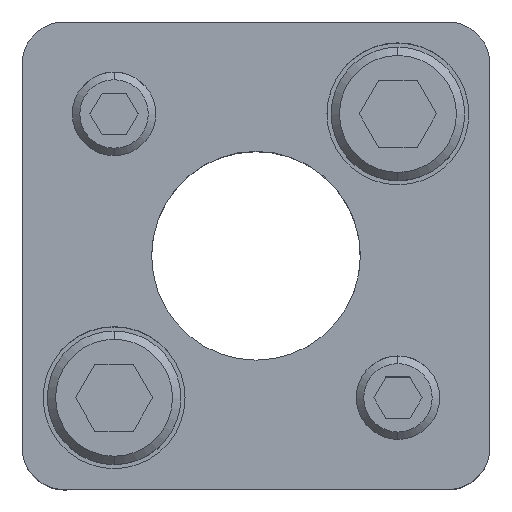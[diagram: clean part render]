
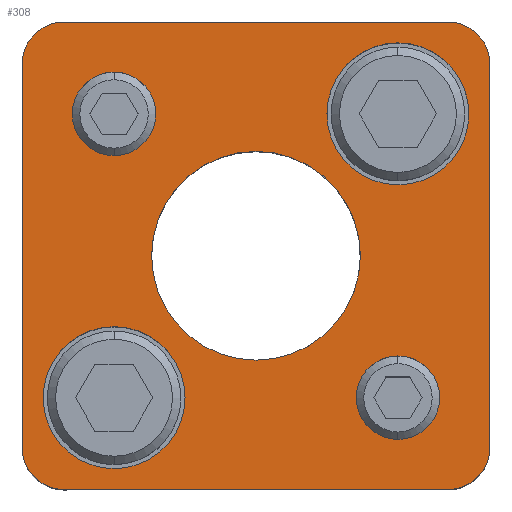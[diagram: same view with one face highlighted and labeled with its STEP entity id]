
A CAD part, top view. The second image highlights one B-rep face of the part: STEP entity #308.
In plain terms, the highlighted planar face has unit normal (0, 0, 1).
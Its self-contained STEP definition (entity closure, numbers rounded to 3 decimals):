
#165=PLANE('',#2567);
#228=FACE_BOUND('',#643,.T.);
#229=FACE_BOUND('',#644,.T.);
#230=FACE_BOUND('',#645,.T.);
#231=FACE_BOUND('',#646,.T.);
#232=FACE_BOUND('',#647,.T.);
#233=FACE_BOUND('',#648,.T.);
#308=ADVANCED_FACE('',(#228,#229,#230,#231,#232,#233),#165,.T.);
#643=EDGE_LOOP('',(#1335,#1336,#1337,#1338,#1339,#1340,#1341,#1342));
#644=EDGE_LOOP('',(#1343,#1344));
#645=EDGE_LOOP('',(#1345,#1346));
#646=EDGE_LOOP('',(#1347,#1348));
#647=EDGE_LOOP('',(#1349,#1350));
#648=EDGE_LOOP('',(#1351,#1352));
#806=LINE('',#3770,#988);
#807=LINE('',#3774,#989);
#808=LINE('',#3778,#990);
#809=LINE('',#3782,#991);
#988=VECTOR('',#3009,1.);
#989=VECTOR('',#3012,1.);
#990=VECTOR('',#3015,1.);
#991=VECTOR('',#3018,1.);
#1335=ORIENTED_EDGE('',*,*,#2102,.T.);
#1336=ORIENTED_EDGE('',*,*,#2103,.T.);
#1337=ORIENTED_EDGE('',*,*,#2104,.T.);
#1338=ORIENTED_EDGE('',*,*,#2105,.T.);
#1339=ORIENTED_EDGE('',*,*,#2106,.T.);
#1340=ORIENTED_EDGE('',*,*,#2107,.T.);
#1341=ORIENTED_EDGE('',*,*,#2108,.T.);
#1342=ORIENTED_EDGE('',*,*,#2109,.T.);
#1343=ORIENTED_EDGE('',*,*,#2110,.F.);
#1344=ORIENTED_EDGE('',*,*,#2111,.F.);
#1345=ORIENTED_EDGE('',*,*,#2112,.F.);
#1346=ORIENTED_EDGE('',*,*,#2113,.F.);
#1347=ORIENTED_EDGE('',*,*,#2088,.F.);
#1348=ORIENTED_EDGE('',*,*,#2084,.F.);
#1349=ORIENTED_EDGE('',*,*,#2082,.F.);
#1350=ORIENTED_EDGE('',*,*,#2078,.F.);
#1351=ORIENTED_EDGE('',*,*,#2114,.T.);
#1352=ORIENTED_EDGE('',*,*,#2115,.T.);
#1837=VERTEX_POINT('',#3718);
#1838=VERTEX_POINT('',#3719);
#1841=VERTEX_POINT('',#3731);
#1842=VERTEX_POINT('',#3732);
#1853=VERTEX_POINT('',#3768);
#1854=VERTEX_POINT('',#3769);
#1855=VERTEX_POINT('',#3771);
#1856=VERTEX_POINT('',#3773);
#1857=VERTEX_POINT('',#3775);
#1858=VERTEX_POINT('',#3777);
#1859=VERTEX_POINT('',#3779);
#1860=VERTEX_POINT('',#3781);
#1861=VERTEX_POINT('',#3784);
#1862=VERTEX_POINT('',#3785);
#1863=VERTEX_POINT('',#3788);
#1864=VERTEX_POINT('',#3789);
#1865=VERTEX_POINT('',#3792);
#1866=VERTEX_POINT('',#3793);
#2078=EDGE_CURVE('',#1837,#1838,#2355,.T.);
#2082=EDGE_CURVE('',#1838,#1837,#2357,.T.);
#2084=EDGE_CURVE('',#1841,#1842,#2359,.T.);
#2088=EDGE_CURVE('',#1842,#1841,#2361,.T.);
#2102=EDGE_CURVE('',#1853,#1854,#2371,.T.);
#2103=EDGE_CURVE('',#1854,#1855,#806,.T.);
#2104=EDGE_CURVE('',#1855,#1856,#2372,.T.);
#2105=EDGE_CURVE('',#1856,#1857,#807,.T.);
#2106=EDGE_CURVE('',#1857,#1858,#2373,.T.);
#2107=EDGE_CURVE('',#1858,#1859,#808,.T.);
#2108=EDGE_CURVE('',#1859,#1860,#2374,.T.);
#2109=EDGE_CURVE('',#1860,#1853,#809,.T.);
#2110=EDGE_CURVE('',#1861,#1862,#2375,.T.);
#2111=EDGE_CURVE('',#1862,#1861,#2376,.T.);
#2112=EDGE_CURVE('',#1863,#1864,#2377,.T.);
#2113=EDGE_CURVE('',#1864,#1863,#2378,.T.);
#2114=EDGE_CURVE('',#1865,#1866,#2379,.T.);
#2115=EDGE_CURVE('',#1866,#1865,#2380,.T.);
#2355=CIRCLE('',#2531,5.);
#2357=CIRCLE('',#2534,5.);
#2359=CIRCLE('',#2538,5.);
#2361=CIRCLE('',#2541,5.);
#2371=CIRCLE('',#2557,5.);
#2372=CIRCLE('',#2558,5.);
#2373=CIRCLE('',#2559,5.);
#2374=CIRCLE('',#2560,5.);
#2375=CIRCLE('',#2561,8.5);
#2376=CIRCLE('',#2562,8.5);
#2377=CIRCLE('',#2563,8.5);
#2378=CIRCLE('',#2564,8.5);
#2379=CIRCLE('',#2565,12.5);
#2380=CIRCLE('',#2566,12.5);
#2531=AXIS2_PLACEMENT_3D('',#3717,#2947,#2948);
#2534=AXIS2_PLACEMENT_3D('',#3726,#2955,#2956);
#2538=AXIS2_PLACEMENT_3D('',#3730,#2963,#2964);
#2541=AXIS2_PLACEMENT_3D('',#3739,#2971,#2972);
#2557=AXIS2_PLACEMENT_3D('',#3767,#3007,#3008);
#2558=AXIS2_PLACEMENT_3D('',#3772,#3010,#3011);
#2559=AXIS2_PLACEMENT_3D('',#3776,#3013,#3014);
#2560=AXIS2_PLACEMENT_3D('',#3780,#3016,#3017);
#2561=AXIS2_PLACEMENT_3D('',#3783,#3019,#3020);
#2562=AXIS2_PLACEMENT_3D('',#3786,#3021,#3022);
#2563=AXIS2_PLACEMENT_3D('',#3787,#3023,#3024);
#2564=AXIS2_PLACEMENT_3D('',#3790,#3025,#3026);
#2565=AXIS2_PLACEMENT_3D('',#3791,#3027,#3028);
#2566=AXIS2_PLACEMENT_3D('',#3794,#3029,#3030);
#2567=AXIS2_PLACEMENT_3D('',#3795,#3031,#3032);
#2947=DIRECTION('',(0.,0.,1.));
#2948=DIRECTION('',(-1.,0.,0.));
#2955=DIRECTION('',(0.,0.,1.));
#2956=DIRECTION('',(1.,0.,0.));
#2963=DIRECTION('',(0.,0.,1.));
#2964=DIRECTION('',(-1.,0.,0.));
#2971=DIRECTION('',(0.,0.,1.));
#2972=DIRECTION('',(1.,0.,0.));
#3007=DIRECTION('',(0.,0.,1.));
#3008=DIRECTION('',(-0.707,0.707,0.));
#3009=DIRECTION('',(0.,1.,0.));
#3010=DIRECTION('',(0.,0.,1.));
#3011=DIRECTION('',(-0.707,-0.707,0.));
#3012=DIRECTION('',(-1.,0.,0.));
#3013=DIRECTION('',(0.,0.,1.));
#3014=DIRECTION('',(0.707,-0.707,0.));
#3015=DIRECTION('',(0.,-1.,0.));
#3016=DIRECTION('',(0.,0.,1.));
#3017=DIRECTION('',(0.707,0.707,0.));
#3018=DIRECTION('',(1.,0.,0.));
#3019=DIRECTION('',(0.,0.,1.));
#3020=DIRECTION('',(1.,0.,0.));
#3021=DIRECTION('',(0.,0.,1.));
#3022=DIRECTION('',(-1.,0.,0.));
#3023=DIRECTION('',(0.,0.,1.));
#3024=DIRECTION('',(1.,0.,0.));
#3025=DIRECTION('',(0.,0.,1.));
#3026=DIRECTION('',(-1.,0.,0.));
#3027=DIRECTION('',(0.,0.,-1.));
#3028=DIRECTION('',(-1.,0.,0.));
#3029=DIRECTION('',(0.,0.,-1.));
#3030=DIRECTION('',(1.,0.,0.));
#3031=DIRECTION('',(0.,0.,1.));
#3032=DIRECTION('',(-1.,0.,0.));
#3717=CARTESIAN_POINT('',(17.,-17.,35.));
#3718=CARTESIAN_POINT('',(17.,-22.,35.));
#3719=CARTESIAN_POINT('',(17.,-12.,35.));
#3726=CARTESIAN_POINT('',(17.,-17.,35.));
#3730=CARTESIAN_POINT('',(-17.,17.,35.));
#3731=CARTESIAN_POINT('',(-17.,12.,35.));
#3732=CARTESIAN_POINT('',(-17.,22.,35.));
#3739=CARTESIAN_POINT('',(-17.,17.,35.));
#3767=CARTESIAN_POINT('',(23.,-23.,35.));
#3768=CARTESIAN_POINT('',(23.,-28.,35.));
#3769=CARTESIAN_POINT('',(28.,-23.,35.));
#3770=CARTESIAN_POINT('',(28.,23.,35.));
#3771=CARTESIAN_POINT('',(28.,23.,35.));
#3772=CARTESIAN_POINT('',(23.,23.,35.));
#3773=CARTESIAN_POINT('',(23.,28.,35.));
#3774=CARTESIAN_POINT('',(-23.,28.,35.));
#3775=CARTESIAN_POINT('',(-23.,28.,35.));
#3776=CARTESIAN_POINT('',(-23.,23.,35.));
#3777=CARTESIAN_POINT('',(-28.,23.,35.));
#3778=CARTESIAN_POINT('',(-28.,23.,35.));
#3779=CARTESIAN_POINT('',(-28.,-23.,35.));
#3780=CARTESIAN_POINT('',(-23.,-23.,35.));
#3781=CARTESIAN_POINT('',(-23.,-28.,35.));
#3782=CARTESIAN_POINT('',(-23.,-28.,35.));
#3783=CARTESIAN_POINT('',(17.,17.,35.));
#3784=CARTESIAN_POINT('',(17.,25.5,35.));
#3785=CARTESIAN_POINT('',(17.,8.5,35.));
#3786=CARTESIAN_POINT('',(17.,17.,35.));
#3787=CARTESIAN_POINT('',(-17.,-17.,35.));
#3788=CARTESIAN_POINT('',(-17.,-8.5,35.));
#3789=CARTESIAN_POINT('',(-17.,-25.5,35.));
#3790=CARTESIAN_POINT('',(-17.,-17.,35.));
#3791=CARTESIAN_POINT('',(0.,0.,35.));
#3792=CARTESIAN_POINT('',(0.,12.5,35.));
#3793=CARTESIAN_POINT('',(0.,-12.5,35.));
#3794=CARTESIAN_POINT('',(0.,0.,35.));
#3795=CARTESIAN_POINT('',(23.,-28.,35.));
